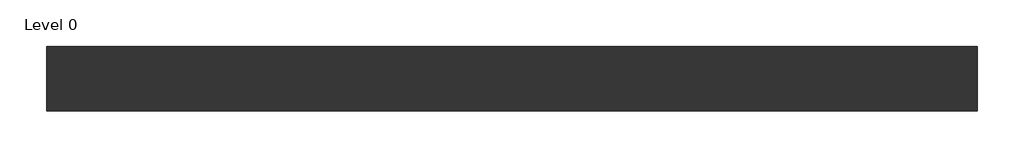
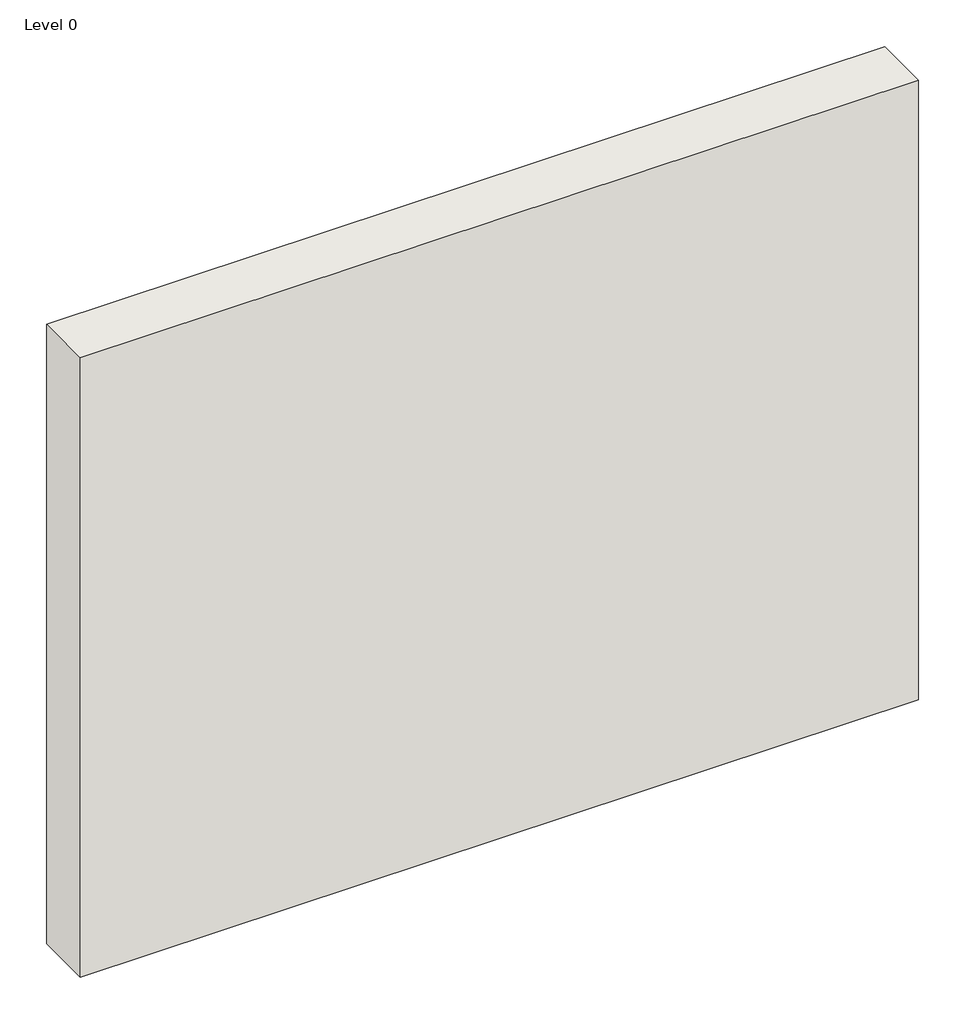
# One storey: 1 wall.
"""IFC4 building model written with IfcOpenShell, lengths in millimetres."""

from ifc_helpers import new_model, si_unit, origin, origin_with_axes, place, context, project, spatial, polyline, outline, extrude, element, save

model = new_model("IFC4")

# Units and contexts
model_context = context("Model", 3, world=origin())
ifc_project = project(units=[si_unit("LENGTHUNIT", "METRE", prefix="MILLI")], contexts=[model_context])

# Site, building, storey
site = spatial("IfcSite", under=ifc_project)
building = spatial("IfcBuilding", under=site)
storey = spatial("IfcBuildingStorey", under=building, Name="Level 0", Elevation=0.0)

# Wall
placement = place(None, origin())
element("IfcWall", 1, ObjectType="A316017 - GypWall QUIET SF", at=placement, inside=storey, context=model_context, shape_type="SweptSolid", body=[
    extrude(outline(polyline([(2116.0807354, 482.2205641), (-1083.9192646, 482.2205641), (-1083.9192646, 705.2205641), (2116.0807354, 705.2205641), (2116.0807354, 482.2205641)])), origin_with_axes(), (0.0, 0.0, 1.0), 2500.0),
])

save(model, "model.ifc")
